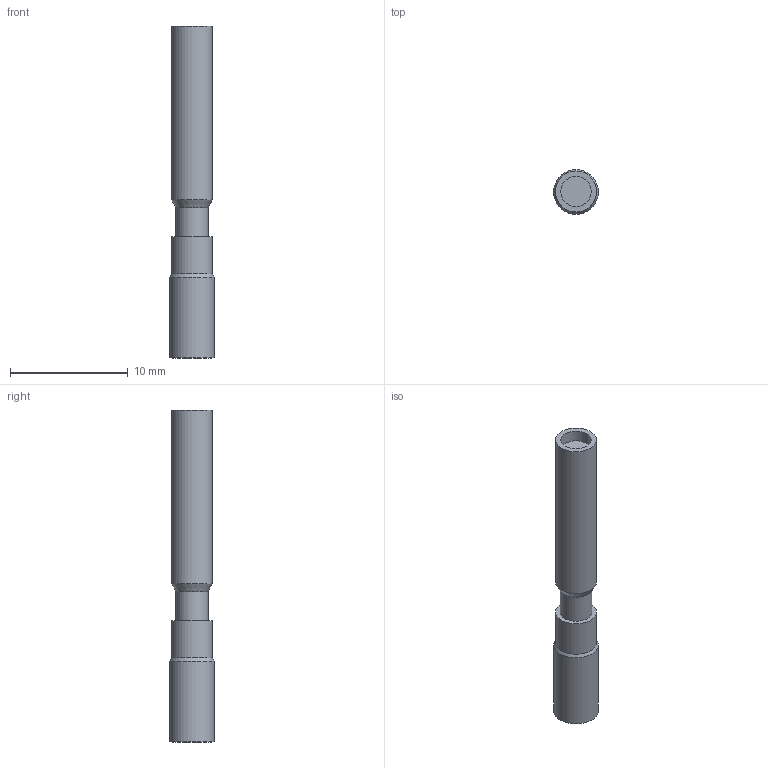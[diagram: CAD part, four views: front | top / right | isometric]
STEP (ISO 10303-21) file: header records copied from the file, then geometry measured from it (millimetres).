
FILE_DESCRIPTION (( 'STEP AP214' ), '1' );
FILE_NAME ('20690r1.STEP', '2011-07-07T13:24:09', ( 'Vicor User' ), ( 'Microsoft' ), 'SwSTEP 2.0', 'SolidWorks 2010', '' );
FILE_SCHEMA (( 'AUTOMOTIVE_DESIGN' ));
Length unit declared in the file: inch
Products named in the file (1): 20690r1
Bounding box: 3.79 x 3.79 x 28.17 mm (x, y, z)
Volume: 258.6 mm3; surface area: 348.4 mm2
Topology: 1 solids, 1 shells, 14 faces, 25 edges, 16 vertices
Faces by surface type: cylinder 6, plane 5, cone 3
Full cylindrical faces by diameter (mm): 2.54 x1, 2.565 x1, 2.718 x1, 3.48 x2, 3.791 x1
Entity records: 314 total; most frequent: DIRECTION 56, CARTESIAN_POINT 41, AXIS2_PLACEMENT_3D 28, ORIENTED_EDGE 26, EDGE_LOOP 26, FACE_OUTER_BOUND 20, ADVANCED_FACE 14, CIRCLE 13
